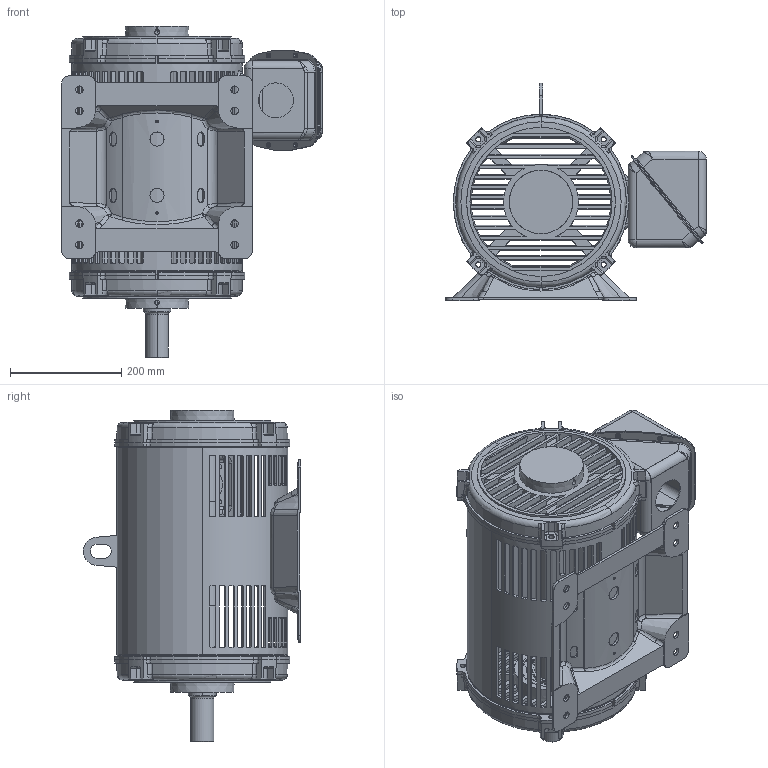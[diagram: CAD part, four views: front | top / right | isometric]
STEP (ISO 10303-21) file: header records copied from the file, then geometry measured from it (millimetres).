
FILE_DESCRIPTION((''),'2;1');
FILE_NAME('280_FULL_ASSY_ASM','2014-08-05T',('NMC779F'),('Nidec Motor Corporation'),'PRO/ENGINEER BY PARAMETRIC TECHNOLOGY CORPORATION, 2013150','PRO/ENGINEER BY PARAMETRIC TECHNOLOGY CORPORATION, 2013150','');
FILE_SCHEMA(('CONFIG_CONTROL_DESIGN'));
Length unit declared in the file: inch
Products named in the file (11): 280_D_FRAME; 0396164; 0396165; 0183520; 0141591; 0561183; 0391696; 0378793; 0378794; 0396168; 280_FULL_ASSY_ASM
Assembly tree (10 placements, depth 2):
  280_FULL_ASSY_ASM
    280_D_FRAME
    0396164
    0396165
    0183520
    0141591
    0561183
    0391696
    0378793
    0378794
    0396168
Bounding box: 468.95 x 391.65 x 596.82 mm (x, y, z)
Volume: 6503490.4 mm3; surface area: 2071838.2 mm2
Topology: 14 solids, 14 shells, 2096 faces, 5759 edges, 3624 vertices
Faces by surface type: plane 979, cylinder 508, bspline 256, cone 227, torus 110, sphere 16
Entity records: 81120 total; most frequent: CARTESIAN_POINT 30476, ORIENTED_EDGE 11470, DIRECTION 9369, EDGE_CURVE 5735, VERTEX_POINT 3624, AXIS2_PLACEMENT_3D 3534, EDGE_LOOP 2347, VECTOR 2301
